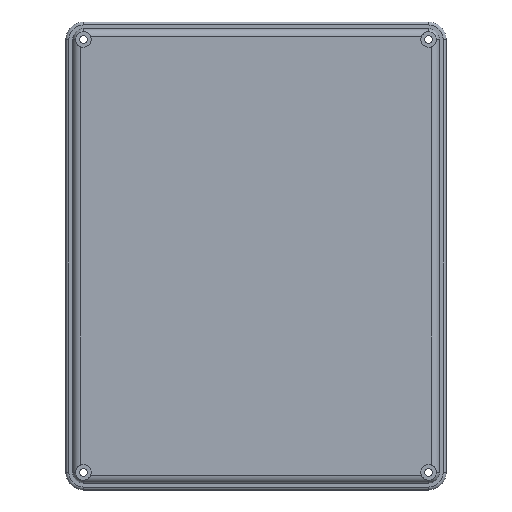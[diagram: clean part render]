
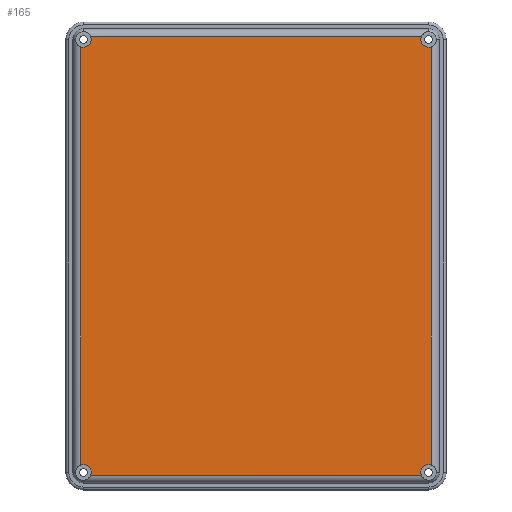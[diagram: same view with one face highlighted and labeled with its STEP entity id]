
A CAD part, top view. The second image highlights one B-rep face of the part: STEP entity #165.
In plain terms, the highlighted planar face has unit normal (0, 0, 1).
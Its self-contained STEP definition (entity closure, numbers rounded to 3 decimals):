
#165=ADVANCED_FACE('',(#401),#402,.T.);
#401=FACE_OUTER_BOUND('',#715,.T.);
#402=PLANE('',#716);
#715=EDGE_LOOP('',(#1150,#1151,#1152,#1153,#1154,#1155,#1156,#1157,#1158,#1159,#1160,#1161));
#716=AXIS2_PLACEMENT_3D('',#1162,#1163,#1164);
#1150=ORIENTED_EDGE('',*,*,#1969,.T.);
#1151=ORIENTED_EDGE('',*,*,#1887,.T.);
#1152=ORIENTED_EDGE('',*,*,#1942,.T.);
#1153=ORIENTED_EDGE('',*,*,#1982,.T.);
#1154=ORIENTED_EDGE('',*,*,#1983,.T.);
#1155=ORIENTED_EDGE('',*,*,#1984,.T.);
#1156=ORIENTED_EDGE('',*,*,#1985,.T.);
#1157=ORIENTED_EDGE('',*,*,#1964,.T.);
#1158=ORIENTED_EDGE('',*,*,#1932,.T.);
#1159=ORIENTED_EDGE('',*,*,#1986,.T.);
#1160=ORIENTED_EDGE('',*,*,#1987,.T.);
#1161=ORIENTED_EDGE('',*,*,#1988,.T.);
#1162=CARTESIAN_POINT('',(0.0,0.0,25.5));
#1163=DIRECTION('',(0.0,0.0,1.0));
#1164=DIRECTION('',(1.0,0.0,0.0));
#1887=EDGE_CURVE('',#2262,#2260,#2263,.T.);
#1932=EDGE_CURVE('',#2341,#2339,#2342,.T.);
#1942=EDGE_CURVE('',#2260,#2357,#2359,.T.);
#1964=EDGE_CURVE('',#2394,#2341,#2395,.T.);
#1969=EDGE_CURVE('',#2401,#2262,#2402,.T.);
#1982=EDGE_CURVE('',#2357,#2422,#2423,.T.);
#1983=EDGE_CURVE('',#2422,#2424,#2425,.T.);
#1984=EDGE_CURVE('',#2424,#2426,#2427,.T.);
#1985=EDGE_CURVE('',#2426,#2394,#2428,.T.);
#1986=EDGE_CURVE('',#2339,#2429,#2430,.T.);
#1987=EDGE_CURVE('',#2429,#2431,#2432,.T.);
#1988=EDGE_CURVE('',#2431,#2401,#2433,.T.);
#2260=VERTEX_POINT('',#2790);
#2262=VERTEX_POINT('',#2813);
#2263=CIRCLE('',#2814,4.0);
#2339=VERTEX_POINT('',#2910);
#2341=VERTEX_POINT('',#2933);
#2342=LINE('',#2934,#2935);
#2357=VERTEX_POINT('',#2973);
#2359=LINE('',#2996,#2997);
#2394=VERTEX_POINT('',#3042);
#2395=CIRCLE('',#3043,4.0);
#2401=VERTEX_POINT('',#3050);
#2402=CIRCLE('',#3051,4.0);
#2422=VERTEX_POINT('',#3097);
#2423=CIRCLE('',#3098,4.0);
#2424=VERTEX_POINT('',#3099);
#2425=CIRCLE('',#3100,4.0);
#2426=VERTEX_POINT('',#3101);
#2427=LINE('',#3102,#3103);
#2428=CIRCLE('',#3104,4.0);
#2429=VERTEX_POINT('',#3105);
#2430=CIRCLE('',#3106,4.0);
#2431=VERTEX_POINT('',#3107);
#2432=CIRCLE('',#3108,4.0);
#2433=LINE('',#3109,#3110);
#2790=CARTESIAN_POINT('',(-84.792,-112.5,25.5));
#2813=CARTESIAN_POINT('',(-84.5,-111.0,25.5));
#2814=AXIS2_PLACEMENT_3D('',#3592,#3593,#3594);
#2910=CARTESIAN_POINT('',(-84.792,112.5,25.5));
#2933=CARTESIAN_POINT('',(84.792,112.5,25.5));
#2934=CARTESIAN_POINT('',(88.5,112.5,25.5));
#2935=VECTOR('',#3663,1.0);
#2973=CARTESIAN_POINT('',(84.792,-112.5,25.5));
#2996=CARTESIAN_POINT('',(-88.5,-112.5,25.5));
#2997=VECTOR('',#3678,1.0);
#3042=CARTESIAN_POINT('',(84.5,111.0,25.5));
#3043=AXIS2_PLACEMENT_3D('',#3707,#3708,#3709);
#3050=CARTESIAN_POINT('',(-90.0,-107.292,25.5));
#3051=AXIS2_PLACEMENT_3D('',#3717,#3718,#3719);
#3097=CARTESIAN_POINT('',(84.5,-111.0,25.5));
#3098=AXIS2_PLACEMENT_3D('',#3734,#3735,#3736);
#3099=CARTESIAN_POINT('',(90.0,-107.292,25.5));
#3100=AXIS2_PLACEMENT_3D('',#3737,#3738,#3739);
#3101=CARTESIAN_POINT('',(90.0,107.292,25.5));
#3102=CARTESIAN_POINT('',(90.0,-111.0,25.5));
#3103=VECTOR('',#3740,1.0);
#3104=AXIS2_PLACEMENT_3D('',#3741,#3742,#3743);
#3105=CARTESIAN_POINT('',(-84.5,111.0,25.5));
#3106=AXIS2_PLACEMENT_3D('',#3744,#3745,#3746);
#3107=CARTESIAN_POINT('',(-90.0,107.292,25.5));
#3108=AXIS2_PLACEMENT_3D('',#3747,#3748,#3749);
#3109=CARTESIAN_POINT('',(-90.0,111.0,25.5));
#3110=VECTOR('',#3750,1.0);
#3592=CARTESIAN_POINT('',(-88.5,-111.0,25.5));
#3593=DIRECTION('',(-0.0,0.0,-1.0));
#3594=DIRECTION('',(-1.0,0.,0.0));
#3663=DIRECTION('',(-1.0,0.0,0.0));
#3678=DIRECTION('',(1.0,0.0,0.0));
#3707=CARTESIAN_POINT('',(88.5,111.0,25.5));
#3708=DIRECTION('',(0.0,0.0,-1.0));
#3709=DIRECTION('',(1.0,0.0,0.0));
#3717=CARTESIAN_POINT('',(-88.5,-111.0,25.5));
#3718=DIRECTION('',(-0.0,0.0,-1.0));
#3719=DIRECTION('',(-1.0,0.,0.0));
#3734=CARTESIAN_POINT('',(88.5,-111.0,25.5));
#3735=DIRECTION('',(0.0,0.0,-1.0));
#3736=DIRECTION('',(1.0,0.0,0.0));
#3737=CARTESIAN_POINT('',(88.5,-111.0,25.5));
#3738=DIRECTION('',(0.0,0.0,-1.0));
#3739=DIRECTION('',(1.0,0.0,0.0));
#3740=DIRECTION('',(0.0,1.0,0.0));
#3741=CARTESIAN_POINT('',(88.5,111.0,25.5));
#3742=DIRECTION('',(0.0,0.0,-1.0));
#3743=DIRECTION('',(1.0,0.0,0.0));
#3744=CARTESIAN_POINT('',(-88.5,111.0,25.5));
#3745=DIRECTION('',(-0.0,0.0,-1.0));
#3746=DIRECTION('',(-1.0,0.0,0.0));
#3747=CARTESIAN_POINT('',(-88.5,111.0,25.5));
#3748=DIRECTION('',(-0.0,0.0,-1.0));
#3749=DIRECTION('',(-1.0,0.0,0.0));
#3750=DIRECTION('',(0.0,-1.0,0.0));
